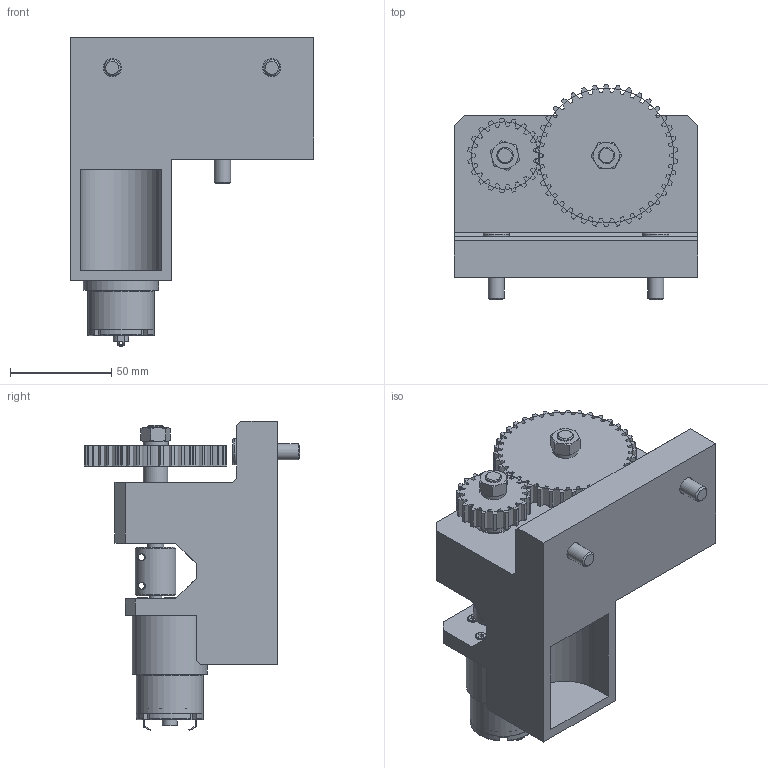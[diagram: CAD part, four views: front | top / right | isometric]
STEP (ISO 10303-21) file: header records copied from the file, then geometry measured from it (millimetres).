
FILE_DESCRIPTION(/* description */ ('','CAx-IF Rec.Pracs.---Representation and Presentation of Product Manufacturing Information (PMI)---4.0---2014-10-13'),/* implementation_level */ '2;1');
FILE_NAME(/* name */ 'Assieme_ingranaggio.stp',/* time_stamp */ '2026-09-22T06:53:09+02:00',/* author */ ('R5800u'),/* organization */ (''),/* preprocessor_version */ 'ST-DEVELOPER v20',/* originating_system */ 'Autodesk Inventor 2025',/* authorisation */ '');
FILE_SCHEMA (('AP242_MANAGED_MODEL_BASED_3D_ENGINEERING_MIM_LF { 1 0 10303 442 1 1 4 }'));
Length unit declared in the file: millimetre
Products named in the file (16): Assieme_ingranaggio; ingranaggio_didattico1; Ingranaggi cilindrici; Ingranaggio cilindrico1; Ingranaggio cilindrico2; Washer GB 93-87 8; AS 1112 - M8  Tipo 5; JGB37-520; %3% BS 290 - SKF 608; carter1; albero_10mm; distanziale1; AS 1420 - 1973 - M8 x 25; giunto1; AS 1420 - 1973 - M3 x 10; UNI 7435-75 - 8
Assembly tree (26 placements, depth 4):
  Assieme_ingranaggio
    ingranaggio_didattico1
      Ingranaggi cilindrici
        Ingranaggio cilindrico1
        Ingranaggio cilindrico2
    albero_10mm  x2
    Washer GB 93-87 8  x2
    AS 1112 - M8  Tipo 5  x2
    %3% BS 290 - SKF 608  x4
    JGB37-520
    carter1
    distanziale1  x2
    AS 1420 - 1973 - M3 x 10  x4
    AS 1420 - 1973 - M8 x 25  x2
    giunto1
    UNI 7435-75 - 8
Bounding box: 120 x 106.12 x 152.38 mm (x, y, z)
Volume: 497875.2 mm3; surface area: 125037.9 mm2
Topology: 34 solids, 36 shells, 892 faces, 2385 edges, 1560 vertices
Faces by surface type: cylinder 393, plane 309, torus 98, cone 59, sphere 29, bspline 4
Full cylindrical faces by diameter (mm): 1.2 x2, 1.6 x3, 2 x3, 2.5 x6, 2.6 x3, 3 x4, 3.4 x8, 4 x3, 4.2 x3, 5.5 x4, 5.8 x4, 6 x4, 6.647 x2, 7.5 x1, 7.6 x2, 8 x16, 9 x2, 12 x5, 12.48 x8, 12.5 x2, 13 x2, 15 x2, 17.52 x8, 19 x2, 22 x7, 24 x1, 32 x2, 33 x1, 33.25 x1, 34 x1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
Entity records: 23934 total; most frequent: CARTESIAN_POINT 5093, DIRECTION 4203, ORIENTED_EDGE 3540, EDGE_CURVE 1772, AXIS2_PLACEMENT_3D 1731, VERTEX_POINT 1165, CIRCLE 889, EDGE_LOOP 823
